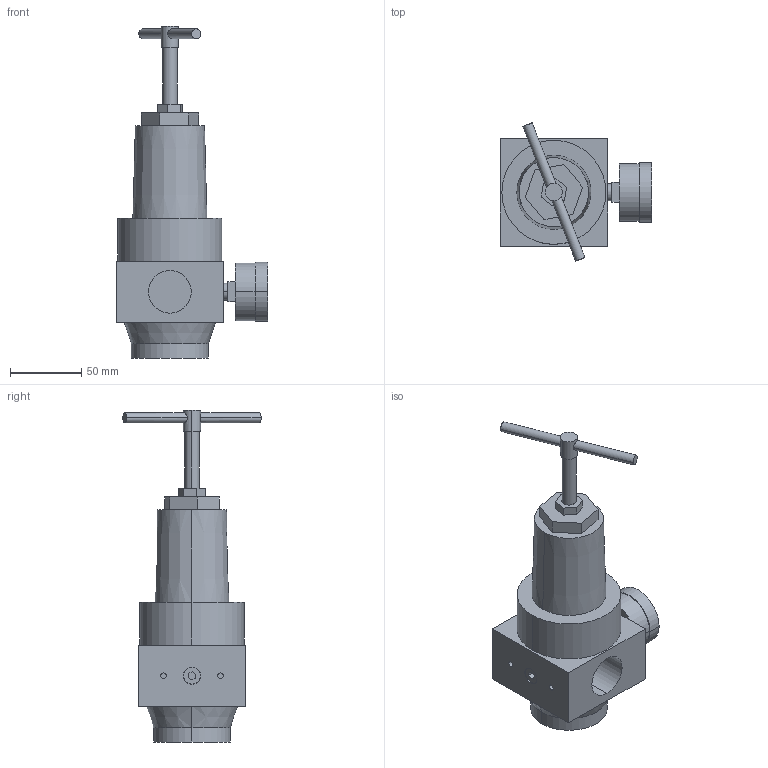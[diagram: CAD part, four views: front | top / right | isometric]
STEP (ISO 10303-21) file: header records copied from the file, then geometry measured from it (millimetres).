
FILE_DESCRIPTION (( 'STEP AP203' ), '1' );
FILE_NAME ('ERH50-10.STEP', '2024-01-22T06:47:46', ( 'E.mc' ), ( 'E.mc' ), 'SwSTEP 2.0', 'SolidWorks 2017', '' );
FILE_SCHEMA (( 'CONFIG_CONTROL_DESIGN' ));
Length unit declared in the file: millimetre
Products named in the file (1): ERH50-10
Bounding box: 106.5 x 97.04 x 233 mm (x, y, z)
Volume: 580768.7 mm3; surface area: 62512.8 mm2
Topology: 2 solids, 2 shells, 92 faces, 196 edges, 130 vertices
Faces by surface type: plane 52, cylinder 36, cone 4
Entity records: 2689 total; most frequent: CARTESIAN_POINT 543, DIRECTION 452, ORIENTED_EDGE 392, EDGE_CURVE 196, AXIS2_PLACEMENT_3D 167, VERTEX_POINT 130, VECTOR 118, LINE 118
